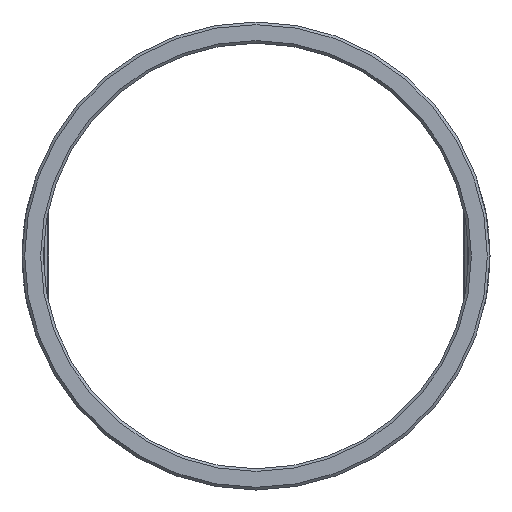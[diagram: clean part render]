
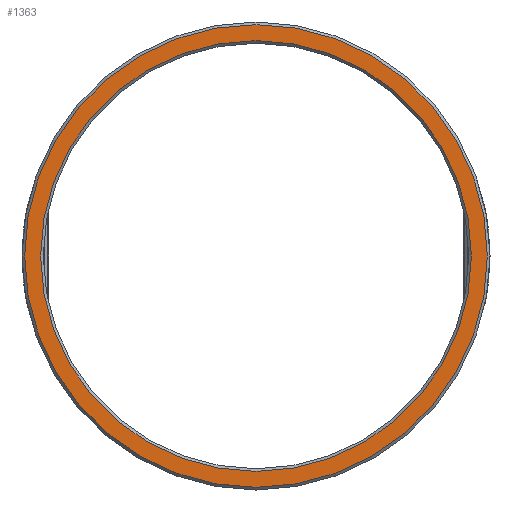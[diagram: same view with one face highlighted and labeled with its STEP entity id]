
A CAD part, left-side view. The second image highlights one B-rep face of the part: STEP entity #1363.
In plain terms, the highlighted planar face has unit normal (-1, 0, 0).
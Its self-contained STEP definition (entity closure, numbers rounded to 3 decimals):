
#1332=CARTESIAN_POINT('',(-12.875,8.1,0.));
#1333=VERTEX_POINT('',#1332);
#1334=CARTESIAN_POINT('',(-12.875,0.0,0.0));
#1335=DIRECTION('',(-1.0,0.0,0.0));
#1336=DIRECTION('',(0.0,-1.0,0.0));
#1337=AXIS2_PLACEMENT_3D('',#1334,#1335,#1336);
#1338=CIRCLE('',#1337,8.1);
#1339=EDGE_CURVE('',#1333,#1333,#1338,.T.);
#1344=CARTESIAN_POINT('',(-12.875,8.4,0.0));
#1345=DIRECTION('',(-1.0,0.0,0.0));
#1346=DIRECTION('',(0.0,0.0,1.0));
#1347=AXIS2_PLACEMENT_3D('',#1344,#1345,#1346);
#1348=PLANE('',#1347);
#1349=CARTESIAN_POINT('',(-12.875,8.7,0.));
#1350=VERTEX_POINT('',#1349);
#1351=CARTESIAN_POINT('',(-12.875,0.0,0.0));
#1352=DIRECTION('',(1.0,0.0,0.0));
#1353=DIRECTION('',(0.0,-1.0,0.0));
#1354=AXIS2_PLACEMENT_3D('',#1351,#1352,#1353);
#1355=CIRCLE('',#1354,8.7);
#1356=EDGE_CURVE('',#1350,#1350,#1355,.T.);
#1357=ORIENTED_EDGE('',*,*,#1356,.F.);
#1358=EDGE_LOOP('',(#1357));
#1359=FACE_OUTER_BOUND('',#1358,.T.);
#1360=ORIENTED_EDGE('',*,*,#1339,.F.);
#1361=EDGE_LOOP('',(#1360));
#1362=FACE_BOUND('',#1361,.T.);
#1363=ADVANCED_FACE('',(#1359,#1362),#1348,.T.);
